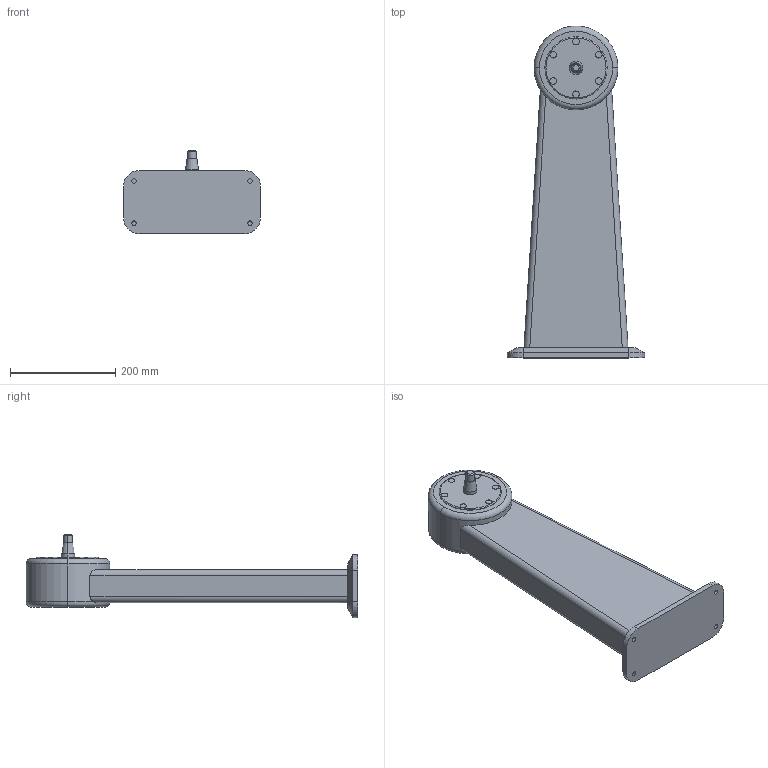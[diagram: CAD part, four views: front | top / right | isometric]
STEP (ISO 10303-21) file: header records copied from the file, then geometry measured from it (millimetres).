
FILE_DESCRIPTION (( 'STEP AP214' ), '1' );
FILE_NAME ('WP700_H550_+00.STEP', '2014-08-14T09:40:25', ( '' ), ( '' ), 'SwSTEP 2.0', 'SolidWorks 2014', '' );
FILE_SCHEMA (( 'AUTOMOTIVE_DESIGN' ));
Length unit declared in the file: millimetre
Products named in the file (1): WP700_H550_+00
Bounding box: 260 x 629.5 x 158.3 mm (x, y, z)
Volume: 7187691.4 mm3; surface area: 340135.6 mm2
Topology: 1 solids, 1 shells, 79 faces, 171 edges, 108 vertices
Faces by surface type: cylinder 36, plane 29, cone 8, torus 6
Entity records: 2290 total; most frequent: CARTESIAN_POINT 471, DIRECTION 408, ORIENTED_EDGE 342, EDGE_CURVE 171, AXIS2_PLACEMENT_3D 167, VERTEX_POINT 108, EDGE_LOOP 93, CIRCLE 87
